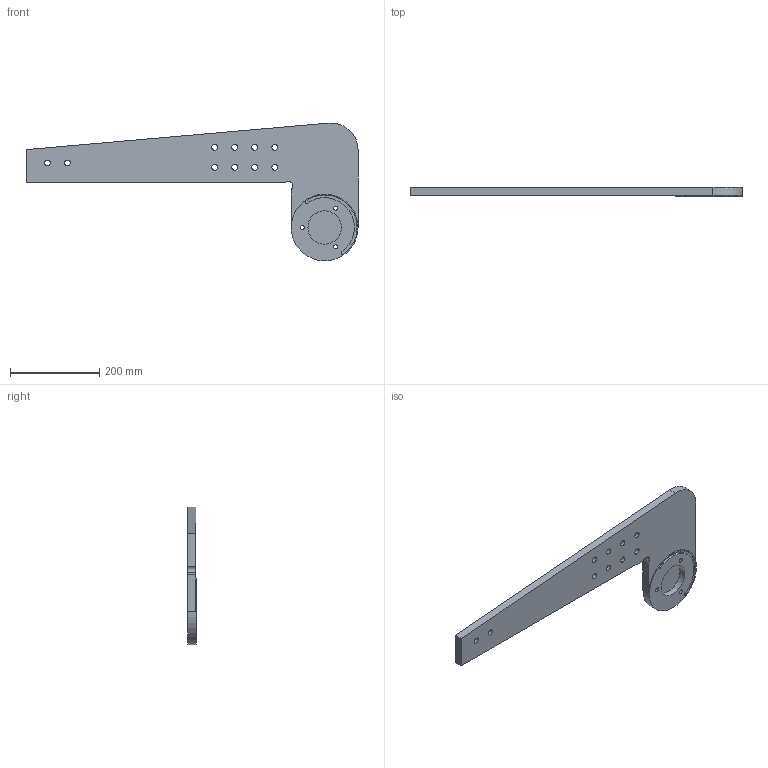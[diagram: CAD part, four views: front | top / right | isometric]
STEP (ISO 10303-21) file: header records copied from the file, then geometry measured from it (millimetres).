
FILE_DESCRIPTION(/* description */ (''),/* implementation_level */ '2;1');
FILE_NAME(/* name */ 'C:\Users\strothej\Documents\ActualDocuments\MicroscopeParts\TwoPhotonSystem\ScanningMechanics\v34\Drawings\Support_Pivot_Arm.stp',/* time_stamp */ '2017-09-22T10:10:18-07:00',/* author */ ('strothej'),/* organization */ (''),/* preprocessor_version */ 'ST-DEVELOPER v16.1',/* originating_system */ 'Autodesk Inventor 2016',/* authorisation */ '');
FILE_SCHEMA (('AUTOMOTIVE_DESIGN { 1 0 10303 214 3 1 1 }'));
Length unit declared in the file: millimetre
Products named in the file (1): Support_Pivot_Arm
Bounding box: 745.5 x 20 x 309.56 mm (x, y, z)
Volume: 1782500.5 mm3; surface area: 259740.3 mm2
Topology: 1 solids, 1 shells, 78 faces, 209 edges, 137 vertices
Faces by surface type: cylinder 45, cone 19, plane 14
Full cylindrical faces by diameter (mm): 3 x1, 4.917 x19, 9 x3, 13 x10, 75 x1, 150 x1
Entity records: 1986 total; most frequent: DIRECTION 372, CARTESIAN_POINT 307, ORIENTED_EDGE 246, AXIS2_PLACEMENT_3D 170, EDGE_LOOP 162, EDGE_CURVE 123, VERTEX_POINT 105, CIRCLE 91
